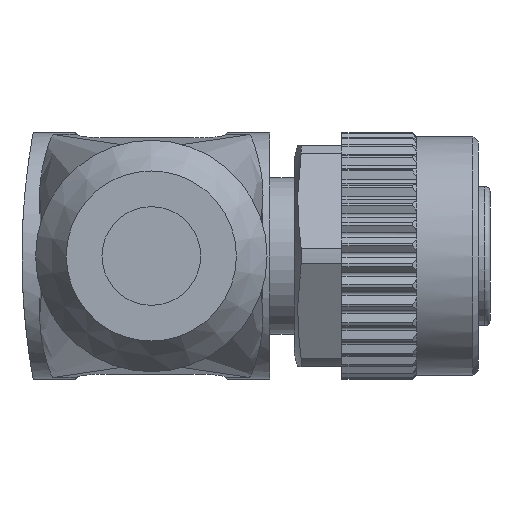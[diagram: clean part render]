
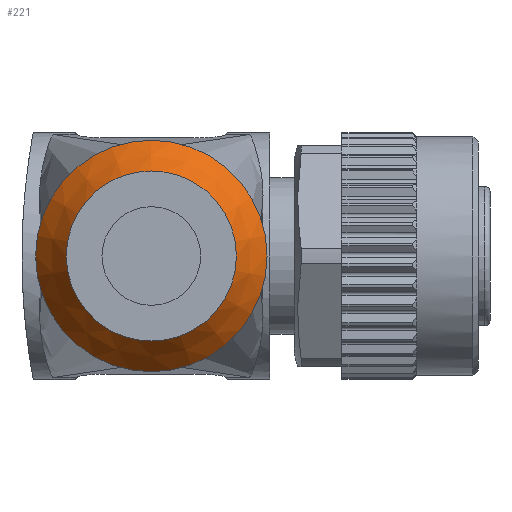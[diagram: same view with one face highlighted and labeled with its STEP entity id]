
A CAD part, front view. The second image highlights one B-rep face of the part: STEP entity #221.
In plain terms, the highlighted conical face has half-angle 35.754 degrees and reference radius 6.8 mm.
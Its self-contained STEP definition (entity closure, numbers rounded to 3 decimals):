
#221 = ADVANCED_FACE( '', ( #689, #690 ), #691, .T. );
#689 = FACE_BOUND( '', #1429, .T. );
#690 = FACE_OUTER_BOUND( '', #1430, .T. );
#691 = CONICAL_SURFACE( '', #1431, 6.8, 0.624 );
#1429 = EDGE_LOOP( '', ( #3001 ) );
#1430 = EDGE_LOOP( '', ( #3002 ) );
#1431 = AXIS2_PLACEMENT_3D( '', #3003, #3004, #3005 );
#3001 = ORIENTED_EDGE( '', *, *, #4894, .F. );
#3002 = ORIENTED_EDGE( '', *, *, #4893, .T. );
#3003 = CARTESIAN_POINT( '', ( 0., 2.5, 0. ) );
#3004 = DIRECTION( '', ( 0., 1., 0. ) );
#3005 = DIRECTION( '', ( 0., 0., 1. ) );
#4893 = EDGE_CURVE( '', #6121, #6121, #6122, .T. );
#4894 = EDGE_CURVE( '', #6123, #6123, #6124, .T. );
#6121 = VERTEX_POINT( '', #8471 );
#6122 = CIRCLE( '', #8472, 6.8 );
#6123 = VERTEX_POINT( '', #8473 );
#6124 = CIRCLE( '', #8474, 5. );
#8471 = CARTESIAN_POINT( '', ( 0., 2.5, -6.8 ) );
#8472 = AXIS2_PLACEMENT_3D( '', #9755, #9756, #9757 );
#8473 = CARTESIAN_POINT( '', ( 0., 0., -5. ) );
#8474 = AXIS2_PLACEMENT_3D( '', #9758, #9759, #9760 );
#9755 = CARTESIAN_POINT( '', ( 0., 2.5, 0. ) );
#9756 = DIRECTION( '', ( 0., -1., 0. ) );
#9757 = DIRECTION( '', ( 0., 0., -1. ) );
#9758 = CARTESIAN_POINT( '', ( 0., 0., 0. ) );
#9759 = DIRECTION( '', ( 0., -1., 0. ) );
#9760 = DIRECTION( '', ( 0., 0., -1. ) );
